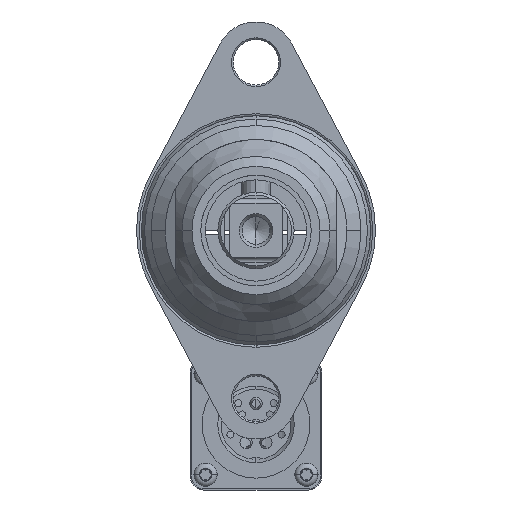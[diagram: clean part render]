
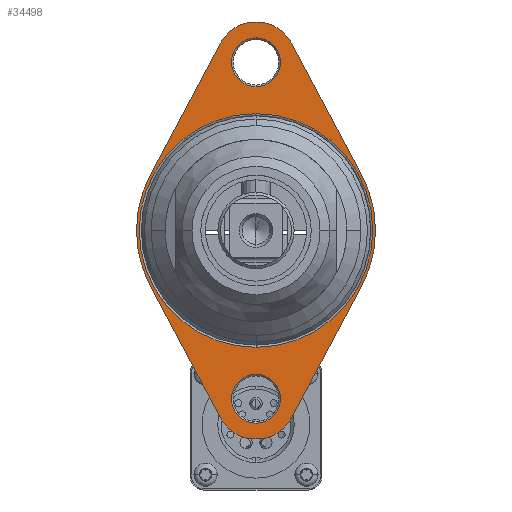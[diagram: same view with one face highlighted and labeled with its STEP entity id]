
A CAD part, left-side view. The second image highlights one B-rep face of the part: STEP entity #34498.
In plain terms, the highlighted planar face has unit normal (-1, 0, 0).
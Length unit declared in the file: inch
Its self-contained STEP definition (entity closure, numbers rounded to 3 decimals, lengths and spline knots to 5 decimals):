
#32558=CARTESIAN_POINT('',(-11.7252,0.005,1.5625));
#32559=DIRECTION('',(-1.,0.,0.));
#32560=DIRECTION('',(0.,-0.882,0.47));
#32561=AXIS2_PLACEMENT_3D('',#32558,#32559,#32560);
#32563=DIRECTION('',(0.,0.47,0.882));
#32564=VECTOR('',#32563,1.37883);
#32565=CARTESIAN_POINT('',(-11.7252,-0.97452,0.52214));
#32566=LINE('',#32565,#32564);
#32567=CARTESIAN_POINT('',(-11.7252,0.005,0.));
#32568=DIRECTION('',(-1.,0.,0.));
#32569=DIRECTION('',(0.,-0.882,-0.47));
#32570=AXIS2_PLACEMENT_3D('',#32567,#32568,#32569);
#32572=DIRECTION('',(0.,-0.47,0.882));
#32573=VECTOR('',#32572,1.37883);
#32574=CARTESIAN_POINT('',(-11.7252,-0.32592,-1.7389));
#32575=LINE('',#32574,#32573);
#32576=CARTESIAN_POINT('',(-11.7252,0.005,-1.5625));
#32577=DIRECTION('',(-1.,0.,0.));
#32578=DIRECTION('',(0.,0.882,-0.47));
#32579=AXIS2_PLACEMENT_3D('',#32576,#32577,#32578);
#32581=DIRECTION('',(0.,-0.47,-0.882));
#32582=VECTOR('',#32581,1.37883);
#32583=CARTESIAN_POINT('',(-11.7252,0.98452,-0.52214));
#32584=LINE('',#32583,#32582);
#32585=CARTESIAN_POINT('',(-11.7252,0.005,0.));
#32586=DIRECTION('',(-1.,0.,0.));
#32587=DIRECTION('',(0.,0.882,0.47));
#32588=AXIS2_PLACEMENT_3D('',#32585,#32586,#32587);
#32590=DIRECTION('',(0.,0.47,-0.882));
#32591=VECTOR('',#32590,1.37883);
#32592=CARTESIAN_POINT('',(-11.7252,0.33592,1.7389));
#32593=LINE('',#32592,#32591);
#32594=CARTESIAN_POINT('',(-11.7252,0.005,0.));
#32595=DIRECTION('',(-1.,0.,0.));
#32596=DIRECTION('',(0.,0.,-1.));
#32597=AXIS2_PLACEMENT_3D('',#32594,#32595,#32596);
#32599=CARTESIAN_POINT('',(-11.7252,0.005,0.));
#32600=DIRECTION('',(-1.,0.,0.));
#32601=DIRECTION('',(0.,0.,1.));
#32602=AXIS2_PLACEMENT_3D('',#32599,#32600,#32601);
#32604=CARTESIAN_POINT('',(-11.7252,0.005,1.5625));
#32605=DIRECTION('',(1.,0.,0.));
#32606=DIRECTION('',(0.,0.,1.));
#32607=AXIS2_PLACEMENT_3D('',#32604,#32605,#32606);
#32622=CARTESIAN_POINT('',(-11.7252,0.005,1.5625));
#32623=DIRECTION('',(1.,0.,0.));
#32624=DIRECTION('',(0.,0.,-1.));
#32625=AXIS2_PLACEMENT_3D('',#32622,#32623,#32624);
#32668=CARTESIAN_POINT('',(-11.7252,0.005,-1.5625));
#32669=DIRECTION('',(-1.,0.,0.));
#32670=DIRECTION('',(0.,0.,-1.));
#32671=AXIS2_PLACEMENT_3D('',#32668,#32669,#32670);
#32686=CARTESIAN_POINT('',(-11.7252,0.005,-1.5625));
#32687=DIRECTION('',(-1.,0.,0.));
#32688=DIRECTION('',(0.,0.,1.));
#32689=AXIS2_PLACEMENT_3D('',#32686,#32687,#32688);
#34163=CARTESIAN_POINT('',(-11.7252,-0.32592,1.7389));
#34164=CARTESIAN_POINT('',(-11.7252,0.33592,1.7389));
#34165=VERTEX_POINT('',#34163);
#34166=VERTEX_POINT('',#34164);
#34167=CARTESIAN_POINT('',(-11.7252,0.98452,0.52214));
#34168=VERTEX_POINT('',#34167);
#34169=CARTESIAN_POINT('',(-11.7252,0.98452,-0.52214));
#34170=VERTEX_POINT('',#34169);
#34171=CARTESIAN_POINT('',(-11.7252,0.33592,-1.7389));
#34172=VERTEX_POINT('',#34171);
#34173=CARTESIAN_POINT('',(-11.7252,-0.32592,-1.7389));
#34174=VERTEX_POINT('',#34173);
#34175=CARTESIAN_POINT('',(-11.7252,-0.97452,-0.52214));
#34176=VERTEX_POINT('',#34175);
#34177=CARTESIAN_POINT('',(-11.7252,-0.97452,0.52214));
#34178=VERTEX_POINT('',#34177);
#34207=CARTESIAN_POINT('',(-11.7252,0.005,1.336));
#34208=CARTESIAN_POINT('',(-11.7252,0.005,1.789));
#34209=VERTEX_POINT('',#34207);
#34210=VERTEX_POINT('',#34208);
#34215=CARTESIAN_POINT('',(-11.7252,0.005,-1.336));
#34216=CARTESIAN_POINT('',(-11.7252,0.005,-1.789));
#34217=VERTEX_POINT('',#34215);
#34218=VERTEX_POINT('',#34216);
#34231=CARTESIAN_POINT('',(-11.7252,0.005,-1.085));
#34232=CARTESIAN_POINT('',(-11.7252,0.005,1.085));
#34233=VERTEX_POINT('',#34231);
#34234=VERTEX_POINT('',#34232);
#34465=CARTESIAN_POINT('',(-11.7252,0.005,0.));
#34466=DIRECTION('',(-1.,0.,0.));
#34467=DIRECTION('',(0.,-1.,0.));
#34468=AXIS2_PLACEMENT_3D('',#34465,#34466,#34467);
#34469=PLANE('',#34468);
#34470=ORIENTED_EDGE('',*,*,#34361,.F.);
#34471=ORIENTED_EDGE('',*,*,#34376,.F.);
#34472=ORIENTED_EDGE('',*,*,#34390,.F.);
#34473=ORIENTED_EDGE('',*,*,#34404,.F.);
#34474=ORIENTED_EDGE('',*,*,#34418,.F.);
#34475=ORIENTED_EDGE('',*,*,#34432,.F.);
#34476=ORIENTED_EDGE('',*,*,#34446,.F.);
#34477=ORIENTED_EDGE('',*,*,#34459,.F.);
#34478=EDGE_LOOP('',(#34470,#34471,#34472,#34473,#34474,#34475,#34476,#34477));
#34479=FACE_OUTER_BOUND('',#34478,.F.);
#34481=ORIENTED_EDGE('',*,*,#34480,.F.);
#34483=ORIENTED_EDGE('',*,*,#34482,.F.);
#34484=EDGE_LOOP('',(#34481,#34483));
#34485=FACE_BOUND('',#34484,.F.);
#34487=ORIENTED_EDGE('',*,*,#34486,.T.);
#34489=ORIENTED_EDGE('',*,*,#34488,.T.);
#34490=EDGE_LOOP('',(#34487,#34489));
#34491=FACE_BOUND('',#34490,.F.);
#34493=ORIENTED_EDGE('',*,*,#34492,.T.);
#34495=ORIENTED_EDGE('',*,*,#34494,.T.);
#34496=EDGE_LOOP('',(#34493,#34495));
#34497=FACE_BOUND('',#34496,.F.);
#34498=ADVANCED_FACE('',(#34479,#34485,#34491,#34497),#34469,.T.);
#32562=CIRCLE('',#32561,0.375);
#32571=CIRCLE('',#32570,1.11);
#32580=CIRCLE('',#32579,0.375);
#32589=CIRCLE('',#32588,1.11);
#32598=CIRCLE('',#32597,1.085);
#32603=CIRCLE('',#32602,1.085);
#32608=CIRCLE('',#32607,0.2265);
#32626=CIRCLE('',#32625,0.2265);
#32672=CIRCLE('',#32671,0.2265);
#32690=CIRCLE('',#32689,0.2265);
#34361=EDGE_CURVE('',#34165,#34166,#32562,.T.);
#34376=EDGE_CURVE('',#34178,#34165,#32566,.T.);
#34390=EDGE_CURVE('',#34176,#34178,#32571,.T.);
#34404=EDGE_CURVE('',#34174,#34176,#32575,.T.);
#34418=EDGE_CURVE('',#34172,#34174,#32580,.T.);
#34432=EDGE_CURVE('',#34170,#34172,#32584,.T.);
#34446=EDGE_CURVE('',#34168,#34170,#32589,.T.);
#34459=EDGE_CURVE('',#34166,#34168,#32593,.T.);
#34480=EDGE_CURVE('',#34210,#34209,#32608,.T.);
#34482=EDGE_CURVE('',#34209,#34210,#32626,.T.);
#34486=EDGE_CURVE('',#34218,#34217,#32672,.T.);
#34488=EDGE_CURVE('',#34217,#34218,#32690,.T.);
#34492=EDGE_CURVE('',#34233,#34234,#32598,.T.);
#34494=EDGE_CURVE('',#34234,#34233,#32603,.T.);
